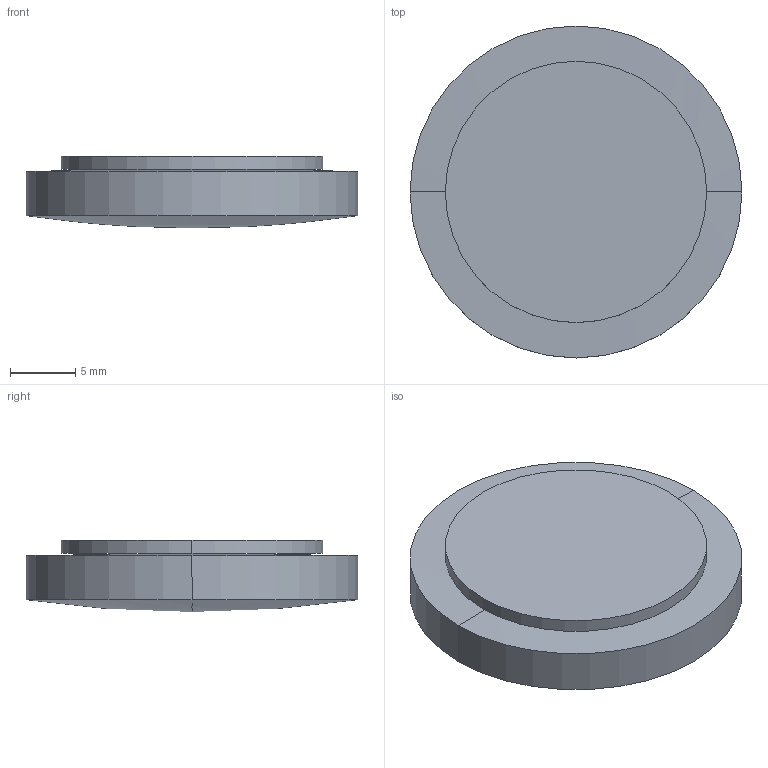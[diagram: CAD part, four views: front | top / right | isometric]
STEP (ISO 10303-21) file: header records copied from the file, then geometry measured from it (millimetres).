
FILE_DESCRIPTION(('STEP AP214'),'1');
FILE_NAME('LLQ-25160.STEP','2020-03-09T17:41:46',(' '),(' '),'Spatial InterOp 3D',' ',' ');
FILE_SCHEMA(('AUTOMOTIVE_DESIGN { 1 0 10303 214 1 1 1 1 }'));
Length unit declared in the file: millimetre
Products named in the file (1): 1
Bounding box: 25.4 x 25.4 x 5.5 mm (x, y, z)
Volume: 2309.2 mm3; surface area: 1976.6 mm2
Topology: 2 solids, 2 shells, 10 faces, 20 edges, 10 vertices
Faces by surface type: sphere 4, cylinder 4, plane 2
Entity records: 255 total; most frequent: DIRECTION 52, CARTESIAN_POINT 38, ORIENTED_EDGE 32, AXIS2_PLACEMENT_3D 24, EDGE_CURVE 16, CIRCLE 12, ADVANCED_FACE 10, FACE_OUTER_BOUND 10
